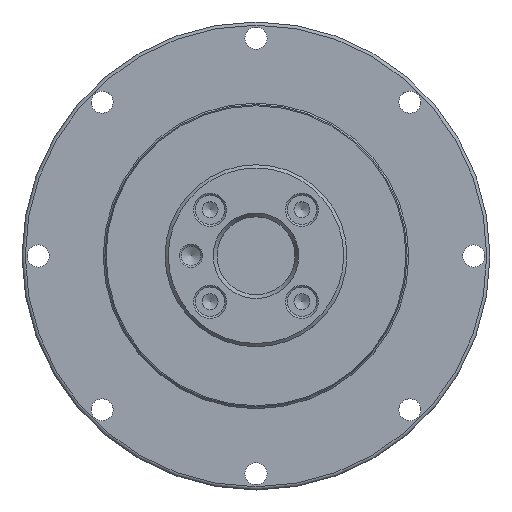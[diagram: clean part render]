
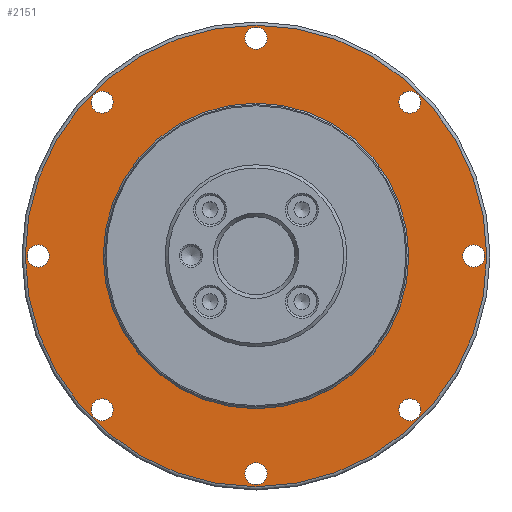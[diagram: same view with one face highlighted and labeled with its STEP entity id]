
A CAD part, top view. The second image highlights one B-rep face of the part: STEP entity #2151.
In plain terms, the highlighted planar face has unit normal (0, 0, 1).
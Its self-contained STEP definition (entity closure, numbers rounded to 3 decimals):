
#2029=CARTESIAN_POINT('',(35.5,0.,4.0));
#2030=VERTEX_POINT('',#2029);
#2031=CARTESIAN_POINT('',(0.0,0.0,4.0));
#2032=DIRECTION('',(0.0,0.0,-1.0));
#2033=DIRECTION('',(-1.0,0.0,0.0));
#2034=AXIS2_PLACEMENT_3D('',#2031,#2032,#2033);
#2035=CIRCLE('',#2034,35.5);
#2036=EDGE_CURVE('',#2030,#2030,#2035,.T.);
#2044=CARTESIAN_POINT('',(0.0,0.0,4.0));
#2045=DIRECTION('',(0.0,0.0,-1.0));
#2046=DIRECTION('',(-1.0,0.0,0.0));
#2047=AXIS2_PLACEMENT_3D('',#2044,#2045,#2046);
#2048=PLANE('',#2047);
#2049=ORIENTED_EDGE('',*,*,#2036,.F.);
#2050=EDGE_LOOP('',(#2049));
#2051=FACE_OUTER_BOUND('',#2050,.T.);
#2052=CARTESIAN_POINT('',(23.5,0.,4.0));
#2053=VERTEX_POINT('',#2052);
#2054=CARTESIAN_POINT('',(0.0,0.0,4.0));
#2055=DIRECTION('',(0.0,0.0,-1.0));
#2056=DIRECTION('',(-1.0,0.0,0.0));
#2057=AXIS2_PLACEMENT_3D('',#2054,#2055,#2056);
#2058=CIRCLE('',#2057,23.5);
#2059=EDGE_CURVE('',#2053,#2053,#2058,.T.);
#2060=ORIENTED_EDGE('',*,*,#2059,.T.);
#2061=EDGE_LOOP('',(#2060));
#2062=FACE_BOUND('',#2061,.T.);
#2063=CARTESIAN_POINT('',(1.7,33.5,4.0));
#2064=VERTEX_POINT('',#2063);
#2065=CARTESIAN_POINT('',(0.0,33.5,4.0));
#2066=DIRECTION('',(0.0,0.0,-1.0));
#2067=DIRECTION('',(-1.0,0.0,0.0));
#2068=AXIS2_PLACEMENT_3D('',#2065,#2066,#2067);
#2069=CIRCLE('',#2068,1.7);
#2070=EDGE_CURVE('',#2064,#2064,#2069,.T.);
#2071=ORIENTED_EDGE('',*,*,#2070,.T.);
#2072=EDGE_LOOP('',(#2071));
#2073=FACE_BOUND('',#2072,.T.);
#2074=CARTESIAN_POINT('',(-22.486,24.89,4.0));
#2075=VERTEX_POINT('',#2074);
#2076=CARTESIAN_POINT('',(-23.688,23.688,4.0));
#2077=DIRECTION('',(0.0,0.0,-1.0));
#2078=DIRECTION('',(-0.707,-0.707,0.0));
#2079=AXIS2_PLACEMENT_3D('',#2076,#2077,#2078);
#2080=CIRCLE('',#2079,1.7);
#2081=EDGE_CURVE('',#2075,#2075,#2080,.T.);
#2082=ORIENTED_EDGE('',*,*,#2081,.T.);
#2083=EDGE_LOOP('',(#2082));
#2084=FACE_BOUND('',#2083,.T.);
#2085=CARTESIAN_POINT('',(-33.5,1.7,4.0));
#2086=VERTEX_POINT('',#2085);
#2087=CARTESIAN_POINT('',(-33.5,0.0,4.0));
#2088=DIRECTION('',(0.0,0.0,-1.0));
#2089=DIRECTION('',(0.0,-1.0,0.0));
#2090=AXIS2_PLACEMENT_3D('',#2087,#2088,#2089);
#2091=CIRCLE('',#2090,1.7);
#2092=EDGE_CURVE('',#2086,#2086,#2091,.T.);
#2093=ORIENTED_EDGE('',*,*,#2092,.T.);
#2094=EDGE_LOOP('',(#2093));
#2095=FACE_BOUND('',#2094,.T.);
#2096=CARTESIAN_POINT('',(-24.89,-22.486,4.0));
#2097=VERTEX_POINT('',#2096);
#2098=CARTESIAN_POINT('',(-23.688,-23.688,4.0));
#2099=DIRECTION('',(0.0,0.0,-1.0));
#2100=DIRECTION('',(0.707,-0.707,0.0));
#2101=AXIS2_PLACEMENT_3D('',#2098,#2099,#2100);
#2102=CIRCLE('',#2101,1.7);
#2103=EDGE_CURVE('',#2097,#2097,#2102,.T.);
#2104=ORIENTED_EDGE('',*,*,#2103,.T.);
#2105=EDGE_LOOP('',(#2104));
#2106=FACE_BOUND('',#2105,.T.);
#2107=CARTESIAN_POINT('',(-1.7,-33.5,4.0));
#2108=VERTEX_POINT('',#2107);
#2109=CARTESIAN_POINT('',(0.,-33.5,4.0));
#2110=DIRECTION('',(0.0,0.0,-1.0));
#2111=DIRECTION('',(1.0,0.0,0.0));
#2112=AXIS2_PLACEMENT_3D('',#2109,#2110,#2111);
#2113=CIRCLE('',#2112,1.7);
#2114=EDGE_CURVE('',#2108,#2108,#2113,.T.);
#2115=ORIENTED_EDGE('',*,*,#2114,.T.);
#2116=EDGE_LOOP('',(#2115));
#2117=FACE_BOUND('',#2116,.T.);
#2118=CARTESIAN_POINT('',(22.486,-24.89,4.0));
#2119=VERTEX_POINT('',#2118);
#2120=CARTESIAN_POINT('',(23.688,-23.688,4.0));
#2121=DIRECTION('',(0.0,0.0,-1.0));
#2122=DIRECTION('',(0.707,0.707,0.0));
#2123=AXIS2_PLACEMENT_3D('',#2120,#2121,#2122);
#2124=CIRCLE('',#2123,1.7);
#2125=EDGE_CURVE('',#2119,#2119,#2124,.T.);
#2126=ORIENTED_EDGE('',*,*,#2125,.T.);
#2127=EDGE_LOOP('',(#2126));
#2128=FACE_BOUND('',#2127,.T.);
#2129=CARTESIAN_POINT('',(33.5,-1.7,4.0));
#2130=VERTEX_POINT('',#2129);
#2131=CARTESIAN_POINT('',(33.5,0.,4.0));
#2132=DIRECTION('',(0.0,0.0,-1.0));
#2133=DIRECTION('',(0.0,1.0,0.0));
#2134=AXIS2_PLACEMENT_3D('',#2131,#2132,#2133);
#2135=CIRCLE('',#2134,1.7);
#2136=EDGE_CURVE('',#2130,#2130,#2135,.T.);
#2137=ORIENTED_EDGE('',*,*,#2136,.T.);
#2138=EDGE_LOOP('',(#2137));
#2139=FACE_BOUND('',#2138,.T.);
#2140=CARTESIAN_POINT('',(24.89,22.486,4.0));
#2141=VERTEX_POINT('',#2140);
#2142=CARTESIAN_POINT('',(23.688,23.688,4.0));
#2143=DIRECTION('',(0.0,0.0,-1.0));
#2144=DIRECTION('',(-0.707,0.707,0.0));
#2145=AXIS2_PLACEMENT_3D('',#2142,#2143,#2144);
#2146=CIRCLE('',#2145,1.7);
#2147=EDGE_CURVE('',#2141,#2141,#2146,.T.);
#2148=ORIENTED_EDGE('',*,*,#2147,.T.);
#2149=EDGE_LOOP('',(#2148));
#2150=FACE_BOUND('',#2149,.T.);
#2151=ADVANCED_FACE('',(#2051,#2062,#2073,#2084,#2095,#2106,#2117,#2128,#2139,#2150),#2048,.F.);
